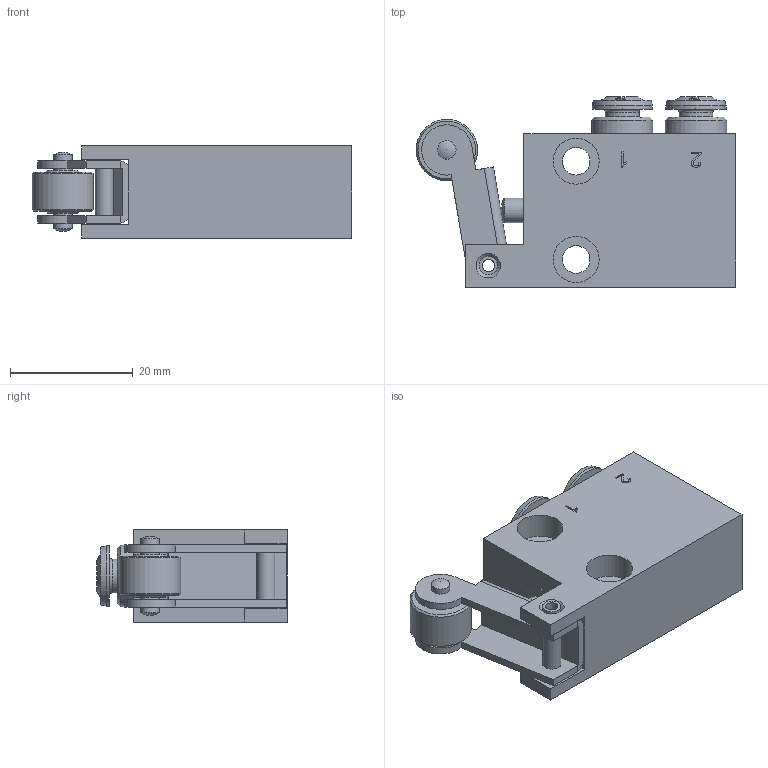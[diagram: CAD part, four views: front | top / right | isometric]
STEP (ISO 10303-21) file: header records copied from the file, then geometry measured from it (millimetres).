
FILE_DESCRIPTION(/* description */ ('Unknown','CAx-IF Rec.Pracs.---Representation and Presentation of Product Manufacturing Information (PMI)---4.0---2014-10-13','CAx-IF Rec.Pracs.---3D Tessellated Geometry---0.4---2014-09-14','2;1'),/* implementation_level */ '2;1');
FILE_NAME(/* name */ 'BR 311 243',/* time_stamp */ '2020-07-03T13:02:15+02:00',/* author */ ('Unknown'),/* organization */ ('Unknown'),/* preprocessor_version */ 'ST-DEVELOPER v16.7',/* originating_system */ 'DEX',/* authorisation */ $);
FILE_SCHEMA (('AP242_MANAGED_MODEL_BASED_3D_ENGINEERING_MIM_LF { 1 0 10303 442 20130219 1 4 }'));
Length unit declared in the file: millimetre
Products named in the file (2): BR 311 243
Assembly tree (1 placements, depth 2):
  BR 311 243
    BR 311 243
Bounding box: 52.06 x 31 x 15.2 mm (x, y, z)
Volume: 12529.7 mm3; surface area: 9875.1 mm2
Topology: 12 solids, 12 shells, 311 faces, 758 edges, 501 vertices
Faces by surface type: plane 120, bspline 70, cylinder 60, cone 51, torus 7, sphere 3
Full cylindrical faces by diameter (mm): 2 x1, 2.8 x1, 2.9 x1, 3 x11, 4 x2, 4.05 x1, 4.1 x2, 4.2 x2, 4.5 x2, 5 x1, 5.5 x4, 5.9 x2, 6 x3, 7 x1, 7.5 x6, 8 x1, 8.06 x1, 8.08 x1, 9 x2, 9.05 x2, 9.8 x2, 10 x3
Entity records: 10163 total; most frequent: CARTESIAN_POINT 4001, ORIENTED_EDGE 1216, DIRECTION 970, EDGE_CURVE 608, EDGE_LOOP 482, FACE_BOUND 482, VERTEX_POINT 454, AXIS2_PLACEMENT_3D 403
